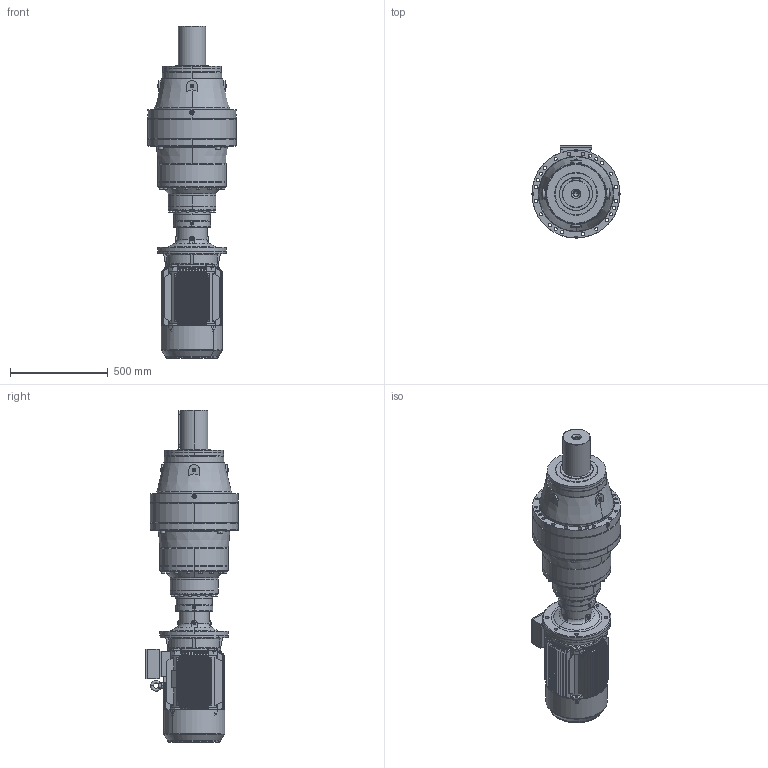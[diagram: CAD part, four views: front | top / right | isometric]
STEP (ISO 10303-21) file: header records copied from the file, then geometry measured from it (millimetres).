
FILE_DESCRIPTION (( 'STEP AP203' ), '1' );
FILE_NAME ('PVL-3504L-HS160L-4.STEP', '2019-05-24T07:19:30', ( '' ), ( '' ), 'SwSTEP 2.0', 'SolidWorks 2012', '' );
FILE_SCHEMA (( 'CONFIG_CONTROL_DESIGN' ));
Length unit declared in the file: millimetre
Products named in the file (18): M3-160L-FF-B5; M3-HS160L-FF-B5; Y2-160_shaft; PVL-3504L-HS160L-4; +¦i-MN2-160_-++ñ; Y2-160L+À+¿(B5)_-++ñ; Y2-160-2ª¥--®+_-++ñ; Eyebolts GB_GB_FASTENER_SCREWS_FRS M12N; Y2-160ñ»ª­+¿_-++ñ; Y2-160-4Ý¾6Ý¾8-ª+---®+_-++ñ; +ª+§ªiY2-160ñ»ª­_-++ñ; FL17A_Varsayìlan; Y2-160-180ñ»ª­®+_-++ñ; EK3504L_Varsayìlan; PNL_3504L_0_0_A16_B5_ML55A_FL17A_0_0_0_0_0_0_0_0_0_0_0_M1; 11160B5_Varsayìlan; P35_Varsayìlan; ML55A_Varsayìlan
Assembly tree (17 placements, depth 5):
  PVL-3504L-HS160L-4
    PNL_3504L_0_0_A16_B5_ML55A_FL17A_0_0_0_0_0_0_0_0_0_0_0_M1
      P35_Varsayìlan
      11160B5_Varsayìlan
      ML55A_Varsayìlan
      EK3504L_Varsayìlan
      FL17A_Varsayìlan
    M3-HS160L-FF-B5
      M3-160L-FF-B5
        +ª+§ªiY2-160ñ»ª­_-++ñ
          Y2-160-180ñ»ª­®+_-++ñ
          Y2-160ñ»ª­+¿_-++ñ
        Y2-160-4Ý¾6Ý¾8-ª+---®+_-++ñ
        Y2-160L+À+¿(B5)_-++ñ
        Eyebolts GB_GB_FASTENER_SCREWS_FRS M12N
        Y2-160-2ª¥--®+_-++ñ
        +¦i-MN2-160_-++ñ
        Y2-160_shaft
Bounding box: 450 x 472 x 1697.6 mm (x, y, z)
Volume: 88574279.8 mm3; surface area: 4921259.1 mm2
Topology: 16 solids, 29 shells, 3899 faces, 10249 edges, 6473 vertices
Faces by surface type: cylinder 1480, plane 1434, bspline 599, cone 265, torus 81, sphere 40
Full cylindrical faces by diameter (mm): 8.566 x1
Entity records: 178053 total; most frequent: CARTESIAN_POINT 84511, ORIENTED_EDGE 20180, DIRECTION 17939, EDGE_CURVE 10098, AXIS2_PLACEMENT_3D 6987, VERTEX_POINT 6459, EDGE_LOOP 4444, VECTOR 3965
